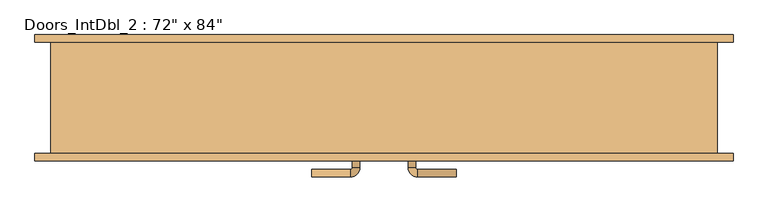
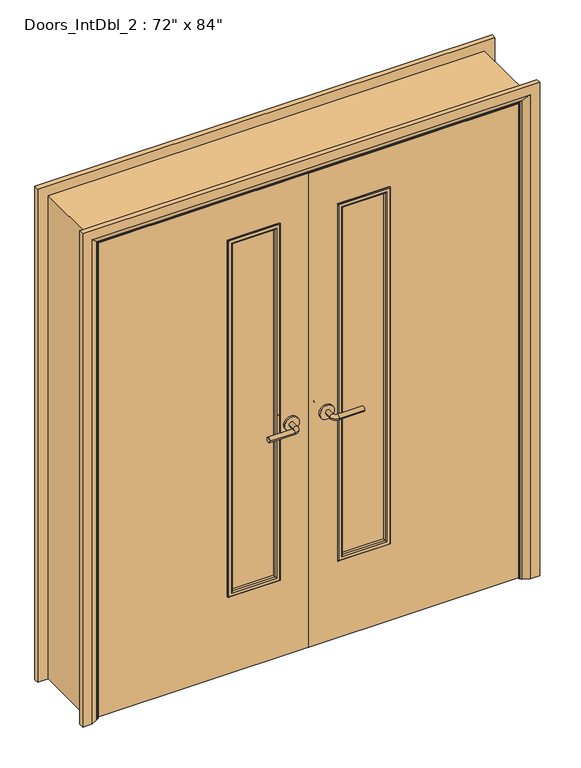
"""IFC4 building model written with IfcOpenShell, lengths in millimetres: door geometry."""

from ifc_helpers import new_model, si_unit, point, frame, frame_2d, origin, place, context, project, spatial, polyline, circle_curve, ellipse_curve, trimmed, segment, composite_curve, outline, extrude, faceted_brep, source, transform, mapped, element, save
from ifc_brep_helpers import plane_surface, cylinder_surface, revolved_surface, advanced_brep


def door_8feb5b00(model_context):
    return source(origin(), model_context, "Body", "SolidModel", [
        advanced_brep(
        [(-65.0, -110.0, 1007.0), (-85.0, -110.0, 1007.0), (-85.0, -80.0, 1007.0), (-65.0, -80.0, 1007.0), (-90.0, -75.0, 1007.0), (-90.0, -55.0, 1007.0), (-195.0, -55.0, 1007.0), (-195.0, -75.0, 1007.0)],
        [
            (0, 1, circle_curve(frame((-75.0, -110.0, 1007.0), z_axis=(0.0, -1.0, 0.0), x_axis=(-1.0, 0.0, 0.0)), 10.0)),
            (1, 0, circle_curve(frame((-75.0, -110.0, 1007.0), z_axis=(0.0, -1.0, 0.0), x_axis=(-1.0, 0.0, 0.0)), 10.0)),
            (1, 2),
            (2, 3, circle_curve(frame((-75.0, -80.0, 1007.0), z_axis=(0.0, -1.0, 0.0), x_axis=(-1.0, 0.0, 0.0)), 10.0)),
            (3, 0),
            (3, 2, circle_curve(frame((-75.0, -80.0, 1007.0), z_axis=(0.0, -1.0, 0.0), x_axis=(-1.0, 0.0, 0.0)), 10.0)),
            (4, 5, circle_curve(frame((-90.0, -65.0, 1007.0), z_axis=(1.0, 0.0, 0.0), x_axis=(0.0, -1.0, 0.0)), 10.0)),
            (5, 3, circle_curve(frame((-90.0, -80.0, 1007.0), z_axis=(0.0, 0.0, -1.0), x_axis=(1.0, 0.0, 0.0)), 25.0)),
            (2, 4, circle_curve(frame((-90.0, -80.0, 1007.0), z_axis=(0.0, 0.0, 1.0), x_axis=(1.0, 0.0, 0.0)), 5.0)),
            (5, 4, circle_curve(frame((-90.0, -65.0, 1007.0), z_axis=(1.0, 0.0, 0.0), x_axis=(0.0, -1.0, 0.0)), 10.0)),
            (6, 7, circle_curve(frame((-195.0, -65.0, 1007.0), z_axis=(-1.0, 0.0, 0.0), x_axis=(0.0, -1.0, 0.0)), 10.0)),
            (7, 6, circle_curve(frame((-195.0, -65.0, 1007.0), z_axis=(-1.0, 0.0, 0.0), x_axis=(0.0, -1.0, 0.0)), 10.0)),
            (4, 7),
            (6, 5),
        ],
        [
            plane_surface(frame((-75.0, -110.0, 1007.0), z_axis=(0.0, -1.0, 0.0), x_axis=(0.0, 0.0, 1.0))),
            cylinder_surface(frame((-75.0, -110.0, 1007.0), z_axis=(0.0, -1.0, 0.0), x_axis=(-1.0, 0.0, 0.0)), 10.0),
            revolved_surface(trimmed(ellipse_curve(frame((-75.0, -80.0, 1007.0), z_axis=(0.0, 1.0, 0.0), x_axis=(-1.0, 0.0, 0.0)), 10.0, 10.0), [point((-65.0, -80.0, 1007.0))], [point((-85.0, -80.0, 1007.0))], True, "CARTESIAN"), (-90.0, -80.0, 1007.0), (0.0, 0.0, -1.0)),
            revolved_surface(trimmed(ellipse_curve(frame((-75.0, -80.0, 1007.0), z_axis=(0.0, 1.0, 0.0), x_axis=(-1.0, 0.0, 0.0)), 10.0, 10.0), [point((-85.0, -80.0, 1007.0))], [point((-65.0, -80.0, 1007.0))], True, "CARTESIAN"), (-90.0, -80.0, 1007.0), (0.0, 0.0, -1.0)),
            plane_surface(frame((-195.0, -65.0, 1007.0), z_axis=(-1.0, 0.0, 0.0), x_axis=(0.0, 0.0, 1.0))),
            cylinder_surface(frame((-90.0, -65.0, 1007.0), z_axis=(1.0, 0.0, 0.0), x_axis=(0.0, -1.0, 0.0)), 10.0),
        ],
        [
            (0, [[1, 2]]),
            (1, [[3, 4, 5, -2]]),
            (1, [[-5, 6, -3, -1]]),
            (2, [[7, 8, -4, 9]]),
            (3, [[10, -9, -6, -8]]),
            (4, [[11, 12]]),
            (5, [[13, -11, 14, -7]]),
            (5, [[-14, -12, -13, -10]]),
        ],
    ),
        extrude(outline(composite_curve([segment(trimmed(circle_curve(frame_2d((1007.0, -72.5)), 30.0), [point((1007.0, -42.5))], [point((1007.0, -102.5))], False, "CARTESIAN"), True, "CONTINUOUS"), segment(trimmed(circle_curve(frame_2d((1007.0, -72.5)), 30.0), [point((1007.0, -102.5))], [point((1007.0, -42.5))], False, "CARTESIAN"), True, "CONTINUOUS")], self_intersect=False)), frame((0.0, -118.0, 0.0), z_axis=(0.0, 1.0, 0.0), x_axis=(0.0, 0.0, 1.0)), (0.0, 0.0, 1.0), 8.0),
        advanced_brep(
        [(-65.0, -158.0, 1007.0), (-85.0, -158.0, 1007.0), (-65.0, -188.0, 1007.0), (-85.0, -188.0, 1007.0), (-90.0, -193.0, 1007.0), (-90.0, -213.0, 1007.0), (-195.0, -213.0, 1007.0), (-195.0, -193.0, 1007.0)],
        [
            (0, 1, circle_curve(frame((-75.0, -158.0, 1007.0), z_axis=(0.0, 1.0, 0.0), x_axis=(-1.0, 0.0, 0.0)), 10.0)),
            (1, 0, circle_curve(frame((-75.0, -158.0, 1007.0), z_axis=(0.0, 1.0, 0.0), x_axis=(-1.0, 0.0, 0.0)), 10.0)),
            (0, 2),
            (2, 3, circle_curve(frame((-75.0, -188.0, 1007.0), z_axis=(0.0, 1.0, 0.0), x_axis=(-1.0, 0.0, 0.0)), 10.0)),
            (3, 1),
            (3, 2, circle_curve(frame((-75.0, -188.0, 1007.0), z_axis=(0.0, 1.0, 0.0), x_axis=(-1.0, 0.0, 0.0)), 10.0)),
            (4, 3, circle_curve(frame((-90.0, -188.0, 1007.0), z_axis=(0.0, 0.0, 1.0), x_axis=(1.0, 0.0, 0.0)), 5.0)),
            (2, 5, circle_curve(frame((-90.0, -188.0, 1007.0), z_axis=(0.0, 0.0, -1.0), x_axis=(1.0, 0.0, 0.0)), 25.0)),
            (5, 4, circle_curve(frame((-90.0, -203.0, 1007.0), z_axis=(1.0, 0.0, 0.0), x_axis=(0.0, 1.0, 0.0)), 10.0)),
            (4, 5, circle_curve(frame((-90.0, -203.0, 1007.0), z_axis=(1.0, 0.0, 0.0), x_axis=(0.0, 1.0, 0.0)), 10.0)),
            (6, 7, circle_curve(frame((-195.0, -203.0, 1007.0), z_axis=(-1.0, 0.0, 0.0), x_axis=(0.0, 1.0, 0.0)), 10.0)),
            (7, 6, circle_curve(frame((-195.0, -203.0, 1007.0), z_axis=(-1.0, 0.0, 0.0), x_axis=(0.0, 1.0, 0.0)), 10.0)),
            (5, 6),
            (7, 4),
        ],
        [
            plane_surface(frame((-75.0, -158.0, 1007.0), z_axis=(0.0, 1.0, 0.0), x_axis=(0.0, 0.0, 1.0))),
            cylinder_surface(frame((-75.0, -158.0, 1007.0), z_axis=(0.0, 1.0, 0.0), x_axis=(-1.0, 0.0, 0.0)), 10.0),
            revolved_surface(trimmed(ellipse_curve(frame((-75.0, -188.0, 1007.0), z_axis=(0.0, 1.0, 0.0), x_axis=(-1.0, 0.0, 0.0)), 10.0, 10.0), [point((-65.0, -188.0, 1007.0))], [point((-85.0, -188.0, 1007.0))], True, "CARTESIAN"), (-90.0, -188.0, 1007.0), (0.0, 0.0, -1.0)),
            revolved_surface(trimmed(ellipse_curve(frame((-75.0, -188.0, 1007.0), z_axis=(0.0, 1.0, 0.0), x_axis=(-1.0, 0.0, 0.0)), 10.0, 10.0), [point((-85.0, -188.0, 1007.0))], [point((-65.0, -188.0, 1007.0))], True, "CARTESIAN"), (-90.0, -188.0, 1007.0), (0.0, 0.0, -1.0)),
            plane_surface(frame((-195.0, -203.0, 1007.0), z_axis=(-1.0, 0.0, 0.0), x_axis=(0.0, 0.0, 1.0))),
            cylinder_surface(frame((-90.0, -203.0, 1007.0), z_axis=(1.0, 0.0, 0.0), x_axis=(0.0, 1.0, 0.0)), 10.0),
        ],
        [
            (0, [[1, 2]]),
            (1, [[-1, 3, 4, 5]]),
            (1, [[-2, -5, 6, -3]]),
            (2, [[7, -4, 8, 9]]),
            (3, [[-8, -6, -7, 10]]),
            (4, [[11, 12]]),
            (5, [[-9, 13, -12, 14]]),
            (5, [[-10, -14, -11, -13]]),
        ],
    ),
        extrude(outline(composite_curve([segment(trimmed(circle_curve(frame_2d((1007.0, -72.5)), 30.0), [point((1007.0, -42.5))], [point((1007.0, -102.5))], False, "CARTESIAN"), True, "CONTINUOUS"), segment(trimmed(circle_curve(frame_2d((1007.0, -72.5)), 30.0), [point((1007.0, -102.5))], [point((1007.0, -42.5))], False, "CARTESIAN"), True, "CONTINUOUS")], self_intersect=False)), frame((0.0, -158.0, 0.0), z_axis=(0.0, 1.0, 0.0), x_axis=(0.0, 0.0, 1.0)), (0.0, 0.0, 1.0), 8.0),
        advanced_brep(
        [(65.0, -110.0, 1007.0), (85.0, -110.0, 1007.0), (65.0, -80.0, 1007.0), (85.0, -80.0, 1007.0), (90.0, -75.0, 1007.0), (90.0, -55.0, 1007.0), (195.0, -55.0, 1007.0), (195.0, -75.0, 1007.0)],
        [
            (0, 1, circle_curve(frame((75.0, -110.0, 1007.0), z_axis=(0.0, -1.0, 0.0), x_axis=(1.0, 0.0, 0.0)), 10.0)),
            (1, 0, circle_curve(frame((75.0, -110.0, 1007.0), z_axis=(0.0, -1.0, 0.0), x_axis=(1.0, 0.0, 0.0)), 10.0)),
            (0, 2),
            (2, 3, circle_curve(frame((75.0, -80.0, 1007.0), z_axis=(0.0, -1.0, 0.0), x_axis=(1.0, 0.0, 0.0)), 10.0)),
            (3, 1),
            (3, 2, circle_curve(frame((75.0, -80.0, 1007.0), z_axis=(0.0, -1.0, 0.0), x_axis=(1.0, 0.0, 0.0)), 10.0)),
            (4, 3, circle_curve(frame((90.0, -80.0, 1007.0), z_axis=(0.0, 0.0, 1.0), x_axis=(-1.0, 0.0, 0.0)), 5.0)),
            (2, 5, circle_curve(frame((90.0, -80.0, 1007.0), z_axis=(0.0, 0.0, -1.0), x_axis=(-1.0, 0.0, 0.0)), 25.0)),
            (5, 4, circle_curve(frame((90.0, -65.0, 1007.0), z_axis=(-1.0, 0.0, 0.0), x_axis=(0.0, -1.0, 0.0)), 10.0)),
            (4, 5, circle_curve(frame((90.0, -65.0, 1007.0), z_axis=(-1.0, 0.0, 0.0), x_axis=(0.0, -1.0, 0.0)), 10.0)),
            (6, 7, circle_curve(frame((195.0, -65.0, 1007.0), z_axis=(1.0, 0.0, 0.0), x_axis=(0.0, -1.0, 0.0)), 10.0)),
            (7, 6, circle_curve(frame((195.0, -65.0, 1007.0), z_axis=(1.0, 0.0, 0.0), x_axis=(0.0, -1.0, 0.0)), 10.0)),
            (5, 6),
            (7, 4),
        ],
        [
            plane_surface(frame((75.0, -110.0, 1007.0), z_axis=(0.0, -1.0, 0.0), x_axis=(0.0, 0.0, 1.0))),
            cylinder_surface(frame((75.0, -110.0, 1007.0), z_axis=(0.0, -1.0, 0.0), x_axis=(1.0, 0.0, 0.0)), 10.0),
            revolved_surface(trimmed(ellipse_curve(frame((75.0, -80.0, 1007.0), z_axis=(0.0, -1.0, 0.0), x_axis=(1.0, 0.0, 0.0)), 10.0, 10.0), [point((65.0, -80.0, 1007.0))], [point((85.0, -80.0, 1007.0))], True, "CARTESIAN"), (90.0, -80.0, 1007.0), (0.0, 0.0, -1.0)),
            revolved_surface(trimmed(ellipse_curve(frame((75.0, -80.0, 1007.0), z_axis=(0.0, -1.0, 0.0), x_axis=(1.0, 0.0, 0.0)), 10.0, 10.0), [point((85.0, -80.0, 1007.0))], [point((65.0, -80.0, 1007.0))], True, "CARTESIAN"), (90.0, -80.0, 1007.0), (0.0, 0.0, -1.0)),
            plane_surface(frame((195.0, -65.0, 1007.0), z_axis=(1.0, 0.0, 0.0), x_axis=(0.0, 0.0, 1.0))),
            cylinder_surface(frame((90.0, -65.0, 1007.0), z_axis=(-1.0, 0.0, 0.0), x_axis=(0.0, -1.0, 0.0)), 10.0),
        ],
        [
            (0, [[1, 2]]),
            (1, [[-1, 3, 4, 5]]),
            (1, [[-2, -5, 6, -3]]),
            (2, [[7, -4, 8, 9]]),
            (3, [[-8, -6, -7, 10]]),
            (4, [[11, 12]]),
            (5, [[-9, 13, -12, 14]]),
            (5, [[-10, -14, -11, -13]]),
        ],
    ),
        extrude(outline(composite_curve([segment(trimmed(circle_curve(frame_2d((1007.0, 72.5)), 30.0), [point((1007.0, 42.5))], [point((1007.0, 102.5))], False, "CARTESIAN"), True, "CONTINUOUS"), segment(trimmed(circle_curve(frame_2d((1007.0, 72.5)), 30.0), [point((1007.0, 102.5))], [point((1007.0, 42.5))], False, "CARTESIAN"), True, "CONTINUOUS")], self_intersect=False)), frame((0.0, -118.0, 0.0), z_axis=(0.0, 1.0, 0.0), x_axis=(0.0, 0.0, 1.0)), (0.0, 0.0, 1.0), 8.0),
        advanced_brep(
        [(65.0, -158.0, 1007.0), (85.0, -158.0, 1007.0), (85.0, -188.0, 1007.0), (65.0, -188.0, 1007.0), (90.0, -193.0, 1007.0), (90.0, -213.0, 1007.0), (195.0, -213.0, 1007.0), (195.0, -193.0, 1007.0)],
        [
            (0, 1, circle_curve(frame((75.0, -158.0, 1007.0), z_axis=(0.0, 1.0, 0.0), x_axis=(1.0, 0.0, 0.0)), 10.0)),
            (1, 0, circle_curve(frame((75.0, -158.0, 1007.0), z_axis=(0.0, 1.0, 0.0), x_axis=(1.0, 0.0, 0.0)), 10.0)),
            (1, 2),
            (2, 3, circle_curve(frame((75.0, -188.0, 1007.0), z_axis=(0.0, 1.0, 0.0), x_axis=(1.0, 0.0, 0.0)), 10.0)),
            (3, 0),
            (3, 2, circle_curve(frame((75.0, -188.0, 1007.0), z_axis=(0.0, 1.0, 0.0), x_axis=(1.0, 0.0, 0.0)), 10.0)),
            (4, 5, circle_curve(frame((90.0, -203.0, 1007.0), z_axis=(-1.0, 0.0, 0.0), x_axis=(0.0, 1.0, 0.0)), 10.0)),
            (5, 3, circle_curve(frame((90.0, -188.0, 1007.0), z_axis=(0.0, 0.0, -1.0), x_axis=(-1.0, 0.0, 0.0)), 25.0)),
            (2, 4, circle_curve(frame((90.0, -188.0, 1007.0), z_axis=(0.0, 0.0, 1.0), x_axis=(-1.0, 0.0, 0.0)), 5.0)),
            (5, 4, circle_curve(frame((90.0, -203.0, 1007.0), z_axis=(-1.0, 0.0, 0.0), x_axis=(0.0, 1.0, 0.0)), 10.0)),
            (6, 7, circle_curve(frame((195.0, -203.0, 1007.0), z_axis=(1.0, 0.0, 0.0), x_axis=(0.0, 1.0, 0.0)), 10.0)),
            (7, 6, circle_curve(frame((195.0, -203.0, 1007.0), z_axis=(1.0, 0.0, 0.0), x_axis=(0.0, 1.0, 0.0)), 10.0)),
            (4, 7),
            (6, 5),
        ],
        [
            plane_surface(frame((75.0, -158.0, 1007.0), z_axis=(0.0, 1.0, 0.0), x_axis=(0.0, 0.0, 1.0))),
            cylinder_surface(frame((75.0, -158.0, 1007.0), z_axis=(0.0, 1.0, 0.0), x_axis=(1.0, 0.0, 0.0)), 10.0),
            revolved_surface(trimmed(ellipse_curve(frame((75.0, -188.0, 1007.0), z_axis=(0.0, -1.0, 0.0), x_axis=(1.0, 0.0, 0.0)), 10.0, 10.0), [point((65.0, -188.0, 1007.0))], [point((85.0, -188.0, 1007.0))], True, "CARTESIAN"), (90.0, -188.0, 1007.0), (0.0, 0.0, -1.0)),
            revolved_surface(trimmed(ellipse_curve(frame((75.0, -188.0, 1007.0), z_axis=(0.0, -1.0, 0.0), x_axis=(1.0, 0.0, 0.0)), 10.0, 10.0), [point((85.0, -188.0, 1007.0))], [point((65.0, -188.0, 1007.0))], True, "CARTESIAN"), (90.0, -188.0, 1007.0), (0.0, 0.0, -1.0)),
            plane_surface(frame((195.0, -203.0, 1007.0), z_axis=(1.0, 0.0, 0.0), x_axis=(0.0, 0.0, 1.0))),
            cylinder_surface(frame((90.0, -203.0, 1007.0), z_axis=(-1.0, 0.0, 0.0), x_axis=(0.0, 1.0, 0.0)), 10.0),
        ],
        [
            (0, [[1, 2]]),
            (1, [[3, 4, 5, -2]]),
            (1, [[-5, 6, -3, -1]]),
            (2, [[7, 8, -4, 9]]),
            (3, [[10, -9, -6, -8]]),
            (4, [[11, 12]]),
            (5, [[13, -11, 14, -7]]),
            (5, [[-14, -12, -13, -10]]),
        ],
    ),
        extrude(outline(composite_curve([segment(trimmed(circle_curve(frame_2d((1007.0, 72.5)), 30.0), [point((1007.0, 42.5))], [point((1007.0, 102.5))], False, "CARTESIAN"), True, "CONTINUOUS"), segment(trimmed(circle_curve(frame_2d((1007.0, 72.5)), 30.0), [point((1007.0, 102.5))], [point((1007.0, 42.5))], False, "CARTESIAN"), True, "CONTINUOUS")], self_intersect=False)), frame((0.0, -158.0, 0.0), z_axis=(0.0, 1.0, 0.0), x_axis=(0.0, 0.0, 1.0)), (0.0, 0.0, 1.0), 8.0),
        advanced_brep(
        [(-940.0, 170.0, 0.0), (-900.0, 170.0, 0.0), (-874.0, 156.0, 0.0), (-870.0, 150.0, 0.0), (-940.0, 150.0, 0.0), (-940.0, 150.0, 2145.0), (-940.0, 170.0, 2145.0), (-870.0, 150.0, 2075.0), (870.0, 150.0, 2075.0), (870.0, 150.0, 0.0), (940.0, 150.0, 0.0), (940.0, 150.0, 2145.0), (-874.0, 156.0, 2079.0), (-900.0, 170.0, 2105.0), (940.0, 170.0, 2145.0), (940.0, 170.0, 0.0), (900.0, 170.0, 0.0), (900.0, 170.0, 2105.0), (874.0, 156.0, 0.0), (874.0, 156.0, 2079.0)],
        [
            (0, 1),
            (1, 2),
            (2, 3, circle_curve(frame((-878.0, 149.0, 0.0), z_axis=(0.0, 0.0, -1.0), x_axis=(-1.0, 0.0, 0.0)), 8.0622577)),
            (3, 4),
            (4, 0),
            (4, 5),
            (5, 6),
            (6, 0),
            (3, 7),
            (7, 8),
            (8, 9),
            (9, 10),
            (10, 11),
            (11, 5),
            (2, 12),
            (12, 7, ellipse_curve(frame((-878.0, 149.0, 2083.0), z_axis=(-0.7071067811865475, 0.0, -0.7071067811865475), x_axis=(0.7071067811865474, 0.0, -0.7071067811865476)), 11.4017543, 8.0622577)),
            (1, 13),
            (13, 12),
            (6, 14),
            (14, 15),
            (15, 16),
            (16, 17),
            (17, 13),
            (10, 15),
            (14, 11),
            (9, 18, circle_curve(frame((878.0, 149.0, 0.0), z_axis=(0.0, 0.0, -1.0), x_axis=(1.0, 0.0, 0.0)), 8.0622577)),
            (18, 16),
            (19, 18),
            (8, 19, ellipse_curve(frame((878.0, 149.0, 2083.0), z_axis=(0.7071067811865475, 0.0, -0.7071067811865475), x_axis=(0.7071067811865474, 0.0, 0.7071067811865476)), 11.4017543, 8.0622577)),
            (19, 17),
            (12, 19),
        ],
        [
            plane_surface(frame((-870.0, 150.0, 0.0), z_axis=(0.0, 0.0, -1.0), x_axis=(0.0, 1.0, 0.0))),
            plane_surface(frame((-940.0, 170.0, 0.0), z_axis=(-1.0, 0.0, 0.0), x_axis=(0.0, 0.0, 1.0))),
            plane_surface(frame((-940.0, 150.0, 0.0), z_axis=(0.0, -1.0, 0.0), x_axis=(0.0, 0.0, 1.0))),
            cylinder_surface(frame((-878.0, 149.0, 0.0), z_axis=(0.0, 0.0, -1.0), x_axis=(-1.0, 0.0, 0.0)), 8.0622577),
            plane_surface(frame((-874.0, 156.0, 0.0), z_axis=(0.4740998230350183, 0.8804710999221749, 0.0), x_axis=(0.0, 0.0, 1.0))),
            plane_surface(frame((-900.0, 170.0, 0.0), z_axis=(0.0, 1.0, 0.0), x_axis=(0.0, 0.0, 1.0))),
            plane_surface(frame((940.0, 170.0, 2145.0), z_axis=(1.0, 0.0, 0.0), x_axis=(0.0, 0.0, -1.0))),
            plane_surface(frame((870.0, 150.0, 0.0), z_axis=(0.0, 0.0, -1.0), x_axis=(0.0, 1.0, 0.0))),
            cylinder_surface(frame((878.0, 149.0, 2075.0), z_axis=(0.0, 0.0, 1.0), x_axis=(1.0, 0.0, 0.0)), 8.0622577),
            plane_surface(frame((874.0, 156.0, 2079.0), z_axis=(-0.4740998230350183, 0.8804710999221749, 0.0), x_axis=(0.0, 0.0, -1.0))),
            plane_surface(frame((-940.0, 170.0, 2145.0), z_axis=(0.0, 0.0, 1.0), x_axis=(1.0, 0.0, 0.0))),
            cylinder_surface(frame((-870.0, 149.0, 2083.0), z_axis=(-1.0, 0.0, 0.0), x_axis=(0.0, 0.0, 1.0)), 8.0622577),
            plane_surface(frame((-874.0, 156.0, 2079.0), z_axis=(0.0, 0.8804710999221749, -0.4740998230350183), x_axis=(1.0, 0.0, 0.0))),
        ],
        [
            (0, [[1, 2, 3, 4, 5]]),
            (1, [[6, 7, 8, -5]]),
            (2, [[9, 10, 11, 12, 13, 14, -6, -4]]),
            (3, [[15, 16, -9, -3]]),
            (4, [[17, 18, -15, -2]]),
            (5, [[-8, 19, 20, 21, 22, 23, -17, -1]]),
            (6, [[-13, 24, -20, 25]]),
            (7, [[-24, -12, 26, 27, -21]]),
            (8, [[28, -26, -11, 29]]),
            (9, [[-22, -27, -28, 30]]),
            (10, [[-14, -25, -19, -7]]),
            (11, [[31, -29, -10, -16]]),
            (12, [[-23, -30, -31, -18]]),
        ],
    ),
        advanced_brep(
        [(940.0, -170.0, 0.0), (900.0, -170.0, 0.0), (874.0, -156.0, 0.0), (870.0, -150.0, 0.0), (940.0, -150.0, 0.0), (940.0, -150.0, 2145.0), (940.0, -170.0, 2145.0), (870.0, -150.0, 2075.0), (-870.0, -150.0, 2075.0), (-870.0, -150.0, 0.0), (-940.0, -150.0, 0.0), (-940.0, -150.0, 2145.0), (874.0, -156.0, 2079.0), (900.0, -170.0, 2105.0), (-940.0, -170.0, 2145.0), (-940.0, -170.0, 0.0), (-900.0, -170.0, 0.0), (-900.0, -170.0, 2105.0), (-874.0, -156.0, 0.0), (-874.0, -156.0, 2079.0)],
        [
            (0, 1),
            (1, 2),
            (2, 3, circle_curve(frame((878.0, -149.0, 0.0), z_axis=(0.0, 0.0, -1.0), x_axis=(1.0, 0.0, 0.0)), 8.0622577)),
            (3, 4),
            (4, 0),
            (4, 5),
            (5, 6),
            (6, 0),
            (3, 7),
            (7, 8),
            (8, 9),
            (9, 10),
            (10, 11),
            (11, 5),
            (2, 12),
            (12, 7, ellipse_curve(frame((878.0, -149.0, 2083.0), z_axis=(0.7071067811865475, 0.0, -0.7071067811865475), x_axis=(-0.7071067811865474, 0.0, -0.7071067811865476)), 11.4017543, 8.0622577)),
            (1, 13),
            (13, 12),
            (6, 14),
            (14, 15),
            (15, 16),
            (16, 17),
            (17, 13),
            (10, 15),
            (14, 11),
            (9, 18, circle_curve(frame((-878.0, -149.0, 0.0), z_axis=(0.0, 0.0, -1.0), x_axis=(-1.0, 0.0, 0.0)), 8.0622577)),
            (18, 16),
            (19, 18),
            (8, 19, ellipse_curve(frame((-878.0, -149.0, 2083.0), z_axis=(-0.7071067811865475, 0.0, -0.7071067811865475), x_axis=(-0.7071067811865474, 0.0, 0.7071067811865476)), 11.4017543, 8.0622577)),
            (19, 17),
            (12, 19),
        ],
        [
            plane_surface(frame((870.0, -150.0, 0.0), z_axis=(0.0, 0.0, -1.0), x_axis=(0.0, 1.0, 0.0))),
            plane_surface(frame((940.0, -170.0, 0.0), z_axis=(1.0, 0.0, 0.0), x_axis=(0.0, 0.0, 1.0))),
            plane_surface(frame((940.0, -150.0, 0.0), z_axis=(0.0, 1.0, 0.0), x_axis=(0.0, 0.0, 1.0))),
            cylinder_surface(frame((878.0, -149.0, 0.0), z_axis=(0.0, 0.0, -1.0), x_axis=(1.0, 0.0, 0.0)), 8.0622577),
            plane_surface(frame((874.0, -156.0, 0.0), z_axis=(-0.4740998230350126, -0.8804710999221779, 0.0), x_axis=(0.0, 0.0, 1.0))),
            plane_surface(frame((900.0, -170.0, 0.0), z_axis=(0.0, -1.0, 0.0), x_axis=(0.0, 0.0, 1.0))),
            plane_surface(frame((-940.0, -170.0, 2145.0), z_axis=(-1.0, 0.0, 0.0), x_axis=(0.0, 0.0, -1.0))),
            plane_surface(frame((-870.0, -150.0, 0.0), z_axis=(0.0, 0.0, -1.0), x_axis=(0.0, 1.0, 0.0))),
            cylinder_surface(frame((-878.0, -149.0, 2075.0), z_axis=(0.0, 0.0, 1.0), x_axis=(-1.0, 0.0, 0.0)), 8.0622577),
            plane_surface(frame((-874.0, -156.0, 2079.0), z_axis=(0.4740998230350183, -0.8804710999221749, 0.0), x_axis=(0.0, 0.0, -1.0))),
            plane_surface(frame((940.0, -170.0, 2145.0), z_axis=(0.0, 0.0, 1.0), x_axis=(-1.0, 0.0, 0.0))),
            cylinder_surface(frame((870.0, -149.0, 2083.0), z_axis=(1.0, 0.0, 0.0), x_axis=(0.0, 0.0, 1.0)), 8.0622577),
            plane_surface(frame((874.0, -156.0, 2079.0), z_axis=(0.0, -0.8804710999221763, -0.4740998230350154), x_axis=(-1.0, 0.0, 0.0))),
        ],
        [
            (0, [[1, 2, 3, 4, 5]]),
            (1, [[6, 7, 8, -5]]),
            (2, [[9, 10, 11, 12, 13, 14, -6, -4]]),
            (3, [[15, 16, -9, -3]]),
            (4, [[17, 18, -15, -2]]),
            (5, [[-8, 19, 20, 21, 22, 23, -17, -1]]),
            (6, [[-13, 24, -20, 25]]),
            (7, [[-24, -12, 26, 27, -21]]),
            (8, [[28, -26, -11, 29]]),
            (9, [[-22, -27, -28, 30]]),
            (10, [[-14, -25, -19, -7]]),
            (11, [[31, -29, -10, -16]]),
            (12, [[-23, -30, -31, -18]]),
        ],
    ),
        faceted_brep([(-846.0, -115.0, 0.0), (-865.0, -115.0, 0.0), (-865.0, -83.0, 0.0), (-846.0, -83.0, 0.0), (-846.0, -83.0, 2051.0), (-846.0, -115.0, 2051.0), (-865.0, -83.0, 2070.0), (-865.0, -115.0, 2070.0), (846.0, -115.0, 0.0), (846.0, -83.0, 0.0), (865.0, -83.0, 0.0), (865.0, -115.0, 0.0), (846.0, -115.0, 2051.0), (865.0, -115.0, 2070.0), (865.0, -83.0, 2070.0), (846.0, -83.0, 2051.0)], [[[0, 1, 2, 3]], [[3, 4, 5, 0]], [[2, 6, 4, 3]], [[1, 7, 6, 2]], [[0, 5, 7, 1]], [[8, 9, 10, 11]], [[12, 8, 11, 13]], [[13, 11, 10, 14]], [[14, 10, 9, 15]], [[15, 9, 8, 12]], [[4, 15, 12, 5]], [[6, 14, 15, 4]], [[7, 13, 14, 6]], [[5, 12, 13, 7]]]),
        extrude(outline(polyline([(2102.0, -897.0), (0.0, -897.0), (0.0, -865.0), (2070.0, -865.0), (2070.0, 865.0), (0.0, 865.0), (0.0, 897.0), (2102.0, 897.0), (2102.0, -897.0)])), frame((0.0, -150.0, 0.0), z_axis=(0.0, 1.0, 0.0), x_axis=(0.0, 0.0, 1.0)), (0.0, 0.0, 1.0), 300.0),
        extrude(outline(polyline([(326.5, -128.0), (326.5, -140.0), (126.5, -140.0), (126.5, -128.0), (326.5, -128.0)])), frame((0.0, 0.0, 350.0), z_axis=(0.0, 0.0, 1.0), x_axis=(1.0, 0.0, 0.0)), (0.0, 0.0, 1.0), 1535.0),
        extrude(outline(polyline([(-126.5, -128.0), (-126.5, -140.0), (-326.5, -140.0), (-326.5, -128.0), (-126.5, -128.0)])), frame((0.0, 0.0, 350.0), z_axis=(0.0, 0.0, 1.0), x_axis=(1.0, 0.0, 0.0)), (0.0, 0.0, 1.0), 1535.0),
        extrude(outline(polyline([(5.753223, -862.0), (5.753223, -1.5), (2067.0, -1.5), (2067.0, -862.0), (5.753223, -862.0)]), holes=[polyline([(1885.0, -326.5), (1885.0, -126.5), (350.0, -126.5), (350.0, -326.5), (1885.0, -326.5)])]), frame((0.0, -150.0, 0.0), z_axis=(0.0, 1.0, 0.0), x_axis=(0.0, 0.0, 1.0)), (0.0, 0.0, 1.0), 32.0),
        extrude(outline(polyline([(5.753223, 862.0), (2067.0, 862.0), (2067.0, 1.5), (5.753223, 1.5), (5.753223, 862.0)]), holes=[polyline([(1885.0, 126.5), (1885.0, 326.5), (350.0, 326.5), (350.0, 126.5), (1885.0, 126.5)])]), frame((0.0, -150.0, 0.0), z_axis=(0.0, 1.0, 0.0), x_axis=(0.0, 0.0, 1.0)), (0.0, 0.0, 1.0), 32.0),
        advanced_brep(
        [(326.5, -128.0, 1885.0), (326.5, -128.0, 350.0), (326.5, -118.0, 350.0), (326.5, -118.0, 1885.0), (314.5, -117.0, 1873.0), (314.5, -117.0, 362.0), (314.5, -128.0, 362.0), (314.5, -128.0, 1873.0), (319.5, -112.0, 1878.0), (319.5, -112.0, 357.0), (334.5, -114.0, 1893.0), (334.5, -114.0, 342.0), (332.5, -112.0, 344.0), (332.5, -112.0, 1891.0), (334.5, -118.0, 1893.0), (334.5, -118.0, 342.0), (126.5, -128.0, 350.0), (126.5, -118.0, 350.0), (138.5, -117.0, 362.0), (138.5, -128.0, 362.0), (133.5, -112.0, 357.0), (118.5, -114.0, 342.0), (120.5, -112.0, 344.0), (118.5, -118.0, 342.0), (126.5, -128.0, 1885.0), (126.5, -118.0, 1885.0), (138.5, -117.0, 1873.0), (138.5, -128.0, 1873.0), (133.5, -112.0, 1878.0), (118.5, -114.0, 1893.0), (120.5, -112.0, 1891.0), (118.5, -118.0, 1893.0)],
        [
            (0, 1),
            (1, 2),
            (2, 3),
            (3, 0),
            (4, 5),
            (5, 6),
            (6, 7),
            (7, 4),
            (8, 9),
            (9, 5, ellipse_curve(frame((319.5, -117.0, 357.0), z_axis=(0.7071067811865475, 0.0, 0.7071067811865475), x_axis=(-0.7071067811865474, 0.0, 0.7071067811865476)), 7.0710678, 5.0)),
            (4, 8, ellipse_curve(frame((319.5, -117.0, 1878.0), z_axis=(0.7071067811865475, 0.0, -0.7071067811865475), x_axis=(0.7071067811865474, 0.0, 0.7071067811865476)), 7.0710678, 5.0)),
            (10, 11),
            (11, 12, ellipse_curve(frame((332.5, -114.0, 344.0), z_axis=(0.7071067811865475, 0.0, 0.7071067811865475), x_axis=(-0.7071067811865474, 0.0, 0.7071067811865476)), 2.8284271, 2.0)),
            (12, 13),
            (13, 10, ellipse_curve(frame((332.5, -114.0, 1891.0), z_axis=(0.7071067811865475, 0.0, -0.7071067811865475), x_axis=(0.7071067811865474, 0.0, 0.7071067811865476)), 2.8284271, 2.0)),
            (14, 15),
            (15, 11),
            (10, 14),
            (1, 16),
            (16, 17),
            (17, 2),
            (5, 18),
            (18, 19),
            (19, 6),
            (9, 20),
            (20, 18, ellipse_curve(frame((133.5, -117.0, 357.0), z_axis=(0.7071067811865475, 0.0, -0.7071067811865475), x_axis=(0.7071067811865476, 0.0, 0.7071067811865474)), 7.0710678, 5.0)),
            (11, 21),
            (21, 22, ellipse_curve(frame((120.5, -114.0, 344.0), z_axis=(0.7071067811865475, 0.0, -0.7071067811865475), x_axis=(0.7071067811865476, 0.0, 0.7071067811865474)), 2.8284271, 2.0)),
            (22, 12),
            (15, 23),
            (23, 21),
            (16, 24),
            (24, 25),
            (25, 17),
            (18, 26),
            (26, 27),
            (27, 19),
            (20, 28),
            (28, 26, ellipse_curve(frame((133.5, -117.0, 1878.0), z_axis=(-0.7071067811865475, 0.0, -0.7071067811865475), x_axis=(0.7071067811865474, 0.0, -0.7071067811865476)), 7.0710678, 5.0)),
            (21, 29),
            (29, 30, ellipse_curve(frame((120.5, -114.0, 1891.0), z_axis=(-0.7071067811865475, 0.0, -0.7071067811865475), x_axis=(0.7071067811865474, 0.0, -0.7071067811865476)), 2.8284271, 2.0)),
            (30, 22),
            (23, 31),
            (31, 29),
            (14, 31),
            (25, 3),
            (24, 0),
            (27, 7),
            (26, 4),
            (28, 8),
            (30, 13),
            (29, 10),
        ],
        [
            plane_surface(frame((326.5, -118.0, 1885.0), z_axis=(1.0, 0.0, 0.0), x_axis=(0.0, 0.0, -1.0))),
            plane_surface(frame((314.5, -128.0, 1873.0), z_axis=(-1.0, 0.0, 0.0), x_axis=(0.0, 0.0, -1.0))),
            cylinder_surface(frame((319.5, -117.0, 1885.0), z_axis=(0.0, 0.0, 1.0), x_axis=(1.0, 0.0, 0.0)), 5.0),
            cylinder_surface(frame((332.5, -114.0, 1885.0), z_axis=(0.0, 0.0, 1.0), x_axis=(1.0, 0.0, 0.0)), 2.0),
            plane_surface(frame((334.5, -114.0, 1893.0), z_axis=(1.0, 0.0, 0.0), x_axis=(0.0, 0.0, -1.0))),
            plane_surface(frame((326.5, -118.0, 350.0), z_axis=(0.0, 0.0, -1.0), x_axis=(-1.0, 0.0, 0.0))),
            plane_surface(frame((314.5, -128.0, 362.0), z_axis=(0.0, 0.0, 1.0), x_axis=(-1.0, 0.0, 0.0))),
            cylinder_surface(frame((326.5, -117.0, 357.0), z_axis=(1.0, 0.0, 0.0), x_axis=(0.0, 0.0, -1.0)), 5.0),
            cylinder_surface(frame((326.5, -114.0, 344.0), z_axis=(1.0, 0.0, 0.0), x_axis=(0.0, 0.0, -1.0)), 2.0),
            plane_surface(frame((334.5, -114.0, 342.0), z_axis=(0.0, 0.0, -1.0), x_axis=(-1.0, 0.0, 0.0))),
            plane_surface(frame((126.5, -118.0, 350.0), z_axis=(-1.0, 0.0, 0.0), x_axis=(0.0, 0.0, 1.0))),
            plane_surface(frame((138.5, -128.0, 362.0), z_axis=(1.0, 0.0, 0.0), x_axis=(0.0, 0.0, 1.0))),
            cylinder_surface(frame((133.5, -117.0, 350.0), z_axis=(0.0, 0.0, -1.0), x_axis=(-1.0, 0.0, 0.0)), 5.0),
            cylinder_surface(frame((120.5, -114.0, 350.0), z_axis=(0.0, 0.0, -1.0), x_axis=(-1.0, 0.0, 0.0)), 2.0),
            plane_surface(frame((118.5, -114.0, 342.0), z_axis=(-1.0, 0.0, 0.0), x_axis=(0.0, 0.0, 1.0))),
            plane_surface(frame((118.5, -118.0, 1893.0), z_axis=(0.0, -1.0, 0.0), x_axis=(1.0, 0.0, 0.0))),
            plane_surface(frame((126.5, -118.0, 1885.0), z_axis=(0.0, 0.0, 1.0), x_axis=(1.0, 0.0, 0.0))),
            plane_surface(frame((126.5, -128.0, 1885.0), z_axis=(0.0, -1.0, 0.0), x_axis=(1.0, 0.0, 0.0))),
            plane_surface(frame((138.5, -128.0, 1873.0), z_axis=(0.0, 0.0, -1.0), x_axis=(1.0, 0.0, 0.0))),
            cylinder_surface(frame((126.5, -117.0, 1878.0), z_axis=(-1.0, 0.0, 0.0), x_axis=(0.0, 0.0, 1.0)), 5.0),
            plane_surface(frame((133.5, -112.0, 1878.0), z_axis=(0.0, 1.0, 0.0), x_axis=(1.0, 0.0, 0.0))),
            cylinder_surface(frame((126.5, -114.0, 1891.0), z_axis=(-1.0, 0.0, 0.0), x_axis=(0.0, 0.0, 1.0)), 2.0),
            plane_surface(frame((118.5, -114.0, 1893.0), z_axis=(0.0, 0.0, 1.0), x_axis=(1.0, 0.0, 0.0))),
        ],
        [
            (0, [[1, 2, 3, 4]]),
            (1, [[5, 6, 7, 8]]),
            (2, [[9, 10, -5, 11]]),
            (3, [[12, 13, 14, 15]]),
            (4, [[16, 17, -12, 18]]),
            (5, [[19, 20, 21, -2]]),
            (6, [[22, 23, 24, -6]]),
            (7, [[25, 26, -22, -10]]),
            (8, [[27, 28, 29, -13]]),
            (9, [[30, 31, -27, -17]]),
            (10, [[32, 33, 34, -20]]),
            (11, [[35, 36, 37, -23]]),
            (12, [[38, 39, -35, -26]]),
            (13, [[40, 41, 42, -28]]),
            (14, [[43, 44, -40, -31]]),
            (15, [[-16, 45, -43, -30], [-3, -21, -34, 46]]),
            (16, [[47, -4, -46, -33]]),
            (17, [[-1, -47, -32, -19], [-7, -24, -37, 48]]),
            (18, [[49, -8, -48, -36]]),
            (19, [[50, -11, -49, -39]]),
            (20, [[-14, -29, -42, 51], [-9, -50, -38, -25]]),
            (21, [[52, -15, -51, -41]]),
            (22, [[-45, -18, -52, -44]]),
        ],
    ),
        advanced_brep(
        [(-326.5, -128.0, 350.0), (-326.5, -128.0, 1885.0), (-326.5, -118.0, 1885.0), (-326.5, -118.0, 350.0), (-314.5, -117.0, 362.0), (-314.5, -117.0, 1873.0), (-314.5, -128.0, 1873.0), (-314.5, -128.0, 362.0), (-319.5, -112.0, 357.0), (-319.5, -112.0, 1878.0), (-334.5, -114.0, 342.0), (-334.5, -114.0, 1893.0), (-332.5, -112.0, 1891.0), (-332.5, -112.0, 344.0), (-334.5, -118.0, 342.0), (-334.5, -118.0, 1893.0), (-126.5, -128.0, 1885.0), (-126.5, -118.0, 1885.0), (-138.5, -117.0, 1873.0), (-138.5, -128.0, 1873.0), (-133.5, -112.0, 1878.0), (-118.5, -114.0, 1893.0), (-120.5, -112.0, 1891.0), (-118.5, -118.0, 1893.0), (-126.5, -128.0, 350.0), (-126.5, -118.0, 350.0), (-138.5, -117.0, 362.0), (-138.5, -128.0, 362.0), (-133.5, -112.0, 357.0), (-118.5, -114.0, 342.0), (-120.5, -112.0, 344.0), (-118.5, -118.0, 342.0)],
        [
            (0, 1),
            (1, 2),
            (2, 3),
            (3, 0),
            (4, 5),
            (5, 6),
            (6, 7),
            (7, 4),
            (8, 9),
            (9, 5, ellipse_curve(frame((-319.5, -117.0, 1878.0), z_axis=(-0.7071067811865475, 0.0, -0.7071067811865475), x_axis=(0.7071067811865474, 0.0, -0.7071067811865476)), 7.0710678, 5.0)),
            (4, 8, ellipse_curve(frame((-319.5, -117.0, 357.0), z_axis=(-0.7071067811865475, 0.0, 0.7071067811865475), x_axis=(-0.7071067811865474, 0.0, -0.7071067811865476)), 7.0710678, 5.0)),
            (10, 11),
            (11, 12, ellipse_curve(frame((-332.5, -114.0, 1891.0), z_axis=(-0.7071067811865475, 0.0, -0.7071067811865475), x_axis=(0.7071067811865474, 0.0, -0.7071067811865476)), 2.8284271, 2.0)),
            (12, 13),
            (13, 10, ellipse_curve(frame((-332.5, -114.0, 344.0), z_axis=(-0.7071067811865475, 0.0, 0.7071067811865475), x_axis=(-0.7071067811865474, 0.0, -0.7071067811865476)), 2.8284271, 2.0)),
            (14, 15),
            (15, 11),
            (10, 14),
            (1, 16),
            (16, 17),
            (17, 2),
            (5, 18),
            (18, 19),
            (19, 6),
            (9, 20),
            (20, 18, ellipse_curve(frame((-133.5, -117.0, 1878.0), z_axis=(-0.7071067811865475, 0.0, 0.7071067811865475), x_axis=(-0.7071067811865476, 0.0, -0.7071067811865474)), 7.0710678, 5.0)),
            (11, 21),
            (21, 22, ellipse_curve(frame((-120.5, -114.0, 1891.0), z_axis=(-0.7071067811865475, 0.0, 0.7071067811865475), x_axis=(-0.7071067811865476, 0.0, -0.7071067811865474)), 2.8284271, 2.0)),
            (22, 12),
            (15, 23),
            (23, 21),
            (16, 24),
            (24, 25),
            (25, 17),
            (18, 26),
            (26, 27),
            (27, 19),
            (20, 28),
            (28, 26, ellipse_curve(frame((-133.5, -117.0, 357.0), z_axis=(0.7071067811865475, 0.0, 0.7071067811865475), x_axis=(-0.7071067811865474, 0.0, 0.7071067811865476)), 7.0710678, 5.0)),
            (21, 29),
            (29, 30, ellipse_curve(frame((-120.5, -114.0, 344.0), z_axis=(0.7071067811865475, 0.0, 0.7071067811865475), x_axis=(-0.7071067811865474, 0.0, 0.7071067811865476)), 2.8284271, 2.0)),
            (30, 22),
            (23, 31),
            (31, 29),
            (14, 31),
            (25, 3),
            (24, 0),
            (27, 7),
            (26, 4),
            (28, 8),
            (30, 13),
            (29, 10),
        ],
        [
            plane_surface(frame((-326.5, -118.0, 350.0), z_axis=(-1.0, 0.0, 0.0), x_axis=(0.0, 0.0, 1.0))),
            plane_surface(frame((-314.5, -128.0, 362.0), z_axis=(1.0, 0.0, 0.0), x_axis=(0.0, 0.0, 1.0))),
            cylinder_surface(frame((-319.5, -117.0, 350.0), z_axis=(0.0, 0.0, -1.0), x_axis=(-1.0, 0.0, 0.0)), 5.0),
            cylinder_surface(frame((-332.5, -114.0, 350.0), z_axis=(0.0, 0.0, -1.0), x_axis=(-1.0, 0.0, 0.0)), 2.0),
            plane_surface(frame((-334.5, -114.0, 342.0), z_axis=(-1.0, 0.0, 0.0), x_axis=(0.0, 0.0, 1.0))),
            plane_surface(frame((-326.5, -118.0, 1885.0), z_axis=(0.0, 0.0, 1.0), x_axis=(1.0, 0.0, 0.0))),
            plane_surface(frame((-314.5, -128.0, 1873.0), z_axis=(0.0, 0.0, -1.0), x_axis=(1.0, 0.0, 0.0))),
            cylinder_surface(frame((-326.5, -117.0, 1878.0), z_axis=(-1.0, 0.0, 0.0), x_axis=(0.0, 0.0, 1.0)), 5.0),
            cylinder_surface(frame((-326.5, -114.0, 1891.0), z_axis=(-1.0, 0.0, 0.0), x_axis=(0.0, 0.0, 1.0)), 2.0),
            plane_surface(frame((-334.5, -114.0, 1893.0), z_axis=(0.0, 0.0, 1.0), x_axis=(1.0, 0.0, 0.0))),
            plane_surface(frame((-126.5, -118.0, 1885.0), z_axis=(1.0, 0.0, 0.0), x_axis=(0.0, 0.0, -1.0))),
            plane_surface(frame((-138.5, -128.0, 1873.0), z_axis=(-1.0, 0.0, 0.0), x_axis=(0.0, 0.0, -1.0))),
            cylinder_surface(frame((-133.5, -117.0, 1885.0), z_axis=(0.0, 0.0, 1.0), x_axis=(1.0, 0.0, 0.0)), 5.0),
            cylinder_surface(frame((-120.5, -114.0, 1885.0), z_axis=(0.0, 0.0, 1.0), x_axis=(1.0, 0.0, 0.0)), 2.0),
            plane_surface(frame((-118.5, -114.0, 1893.0), z_axis=(1.0, 0.0, 0.0), x_axis=(0.0, 0.0, -1.0))),
            plane_surface(frame((-118.5, -118.0, 342.0), z_axis=(0.0, -1.0, 0.0), x_axis=(-1.0, 0.0, 0.0))),
            plane_surface(frame((-126.5, -118.0, 350.0), z_axis=(0.0, 0.0, -1.0), x_axis=(-1.0, 0.0, 0.0))),
            plane_surface(frame((-126.5, -128.0, 350.0), z_axis=(0.0, -1.0, 0.0), x_axis=(-1.0, 0.0, 0.0))),
            plane_surface(frame((-138.5, -128.0, 362.0), z_axis=(0.0, 0.0, 1.0), x_axis=(-1.0, 0.0, 0.0))),
            cylinder_surface(frame((-126.5, -117.0, 357.0), z_axis=(1.0, 0.0, 0.0), x_axis=(0.0, 0.0, -1.0)), 5.0),
            plane_surface(frame((-133.5, -112.0, 357.0), z_axis=(0.0, 1.0, 0.0), x_axis=(-1.0, 0.0, 0.0))),
            cylinder_surface(frame((-126.5, -114.0, 344.0), z_axis=(1.0, 0.0, 0.0), x_axis=(0.0, 0.0, -1.0)), 2.0),
            plane_surface(frame((-118.5, -114.0, 342.0), z_axis=(0.0, 0.0, -1.0), x_axis=(-1.0, 0.0, 0.0))),
        ],
        [
            (0, [[1, 2, 3, 4]]),
            (1, [[5, 6, 7, 8]]),
            (2, [[9, 10, -5, 11]]),
            (3, [[12, 13, 14, 15]]),
            (4, [[16, 17, -12, 18]]),
            (5, [[19, 20, 21, -2]]),
            (6, [[22, 23, 24, -6]]),
            (7, [[25, 26, -22, -10]]),
            (8, [[27, 28, 29, -13]]),
            (9, [[30, 31, -27, -17]]),
            (10, [[32, 33, 34, -20]]),
            (11, [[35, 36, 37, -23]]),
            (12, [[38, 39, -35, -26]]),
            (13, [[40, 41, 42, -28]]),
            (14, [[43, 44, -40, -31]]),
            (15, [[-16, 45, -43, -30], [-3, -21, -34, 46]]),
            (16, [[47, -4, -46, -33]]),
            (17, [[-1, -47, -32, -19], [-7, -24, -37, 48]]),
            (18, [[49, -8, -48, -36]]),
            (19, [[50, -11, -49, -39]]),
            (20, [[-14, -29, -42, 51], [-9, -50, -38, -25]]),
            (21, [[52, -15, -51, -41]]),
            (22, [[-45, -18, -52, -44]]),
        ],
    ),
        advanced_brep(
        [(326.5, -140.0, 350.0), (326.5, -140.0, 1885.0), (326.5, -150.0, 1885.0), (326.5, -150.0, 350.0), (314.5, -151.0, 362.0), (314.5, -151.0, 1873.0), (314.5, -140.0, 1873.0), (314.5, -140.0, 362.0), (319.5, -156.0, 357.0), (319.5, -156.0, 1878.0), (334.5, -154.0, 342.0), (334.5, -154.0, 1893.0), (332.5, -156.0, 1891.0), (332.5, -156.0, 344.0), (334.5, -150.0, 342.0), (334.5, -150.0, 1893.0), (126.5, -140.0, 1885.0), (126.5, -150.0, 1885.0), (138.5, -151.0, 1873.0), (138.5, -140.0, 1873.0), (133.5, -156.0, 1878.0), (118.5, -154.0, 1893.0), (120.5, -156.0, 1891.0), (118.5, -150.0, 1893.0), (126.5, -140.0, 350.0), (126.5, -150.0, 350.0), (138.5, -151.0, 362.0), (138.5, -140.0, 362.0), (133.5, -156.0, 357.0), (118.5, -154.0, 342.0), (120.5, -156.0, 344.0), (118.5, -150.0, 342.0)],
        [
            (0, 1),
            (1, 2),
            (2, 3),
            (3, 0),
            (4, 5),
            (5, 6),
            (6, 7),
            (7, 4),
            (8, 9),
            (9, 5, ellipse_curve(frame((319.5, -151.0, 1878.0), z_axis=(0.7071067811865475, 0.0, -0.7071067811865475), x_axis=(-0.7071067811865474, 0.0, -0.7071067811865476)), 7.0710678, 5.0)),
            (4, 8, ellipse_curve(frame((319.5, -151.0, 357.0), z_axis=(0.7071067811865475, 0.0, 0.7071067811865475), x_axis=(0.7071067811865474, 0.0, -0.7071067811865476)), 7.0710678, 5.0)),
            (10, 11),
            (11, 12, ellipse_curve(frame((332.5, -154.0, 1891.0), z_axis=(0.7071067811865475, 0.0, -0.7071067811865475), x_axis=(-0.7071067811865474, 0.0, -0.7071067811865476)), 2.8284271, 2.0)),
            (12, 13),
            (13, 10, ellipse_curve(frame((332.5, -154.0, 344.0), z_axis=(0.7071067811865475, 0.0, 0.7071067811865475), x_axis=(0.7071067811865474, 0.0, -0.7071067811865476)), 2.8284271, 2.0)),
            (14, 15),
            (15, 11),
            (10, 14),
            (1, 16),
            (16, 17),
            (17, 2),
            (5, 18),
            (18, 19),
            (19, 6),
            (9, 20),
            (20, 18, ellipse_curve(frame((133.5, -151.0, 1878.0), z_axis=(0.7071067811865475, 0.0, 0.7071067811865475), x_axis=(0.7071067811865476, 0.0, -0.7071067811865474)), 7.0710678, 5.0)),
            (11, 21),
            (21, 22, ellipse_curve(frame((120.5, -154.0, 1891.0), z_axis=(0.7071067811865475, 0.0, 0.7071067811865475), x_axis=(0.7071067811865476, 0.0, -0.7071067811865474)), 2.8284271, 2.0)),
            (22, 12),
            (15, 23),
            (23, 21),
            (16, 24),
            (24, 25),
            (25, 17),
            (18, 26),
            (26, 27),
            (27, 19),
            (20, 28),
            (28, 26, ellipse_curve(frame((133.5, -151.0, 357.0), z_axis=(-0.7071067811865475, 0.0, 0.7071067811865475), x_axis=(0.7071067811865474, 0.0, 0.7071067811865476)), 7.0710678, 5.0)),
            (21, 29),
            (29, 30, ellipse_curve(frame((120.5, -154.0, 344.0), z_axis=(-0.7071067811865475, 0.0, 0.7071067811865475), x_axis=(0.7071067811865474, 0.0, 0.7071067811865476)), 2.8284271, 2.0)),
            (30, 22),
            (23, 31),
            (31, 29),
            (14, 31),
            (25, 3),
            (24, 0),
            (27, 7),
            (26, 4),
            (28, 8),
            (30, 13),
            (29, 10),
        ],
        [
            plane_surface(frame((326.5, -150.0, 350.0), z_axis=(1.0, 0.0, 0.0), x_axis=(0.0, 0.0, 1.0))),
            plane_surface(frame((314.5, -140.0, 362.0), z_axis=(-1.0, 0.0, 0.0), x_axis=(0.0, 0.0, 1.0))),
            cylinder_surface(frame((319.5, -151.0, 350.0), z_axis=(0.0, 0.0, -1.0), x_axis=(1.0, 0.0, 0.0)), 5.0),
            cylinder_surface(frame((332.5, -154.0, 350.0), z_axis=(0.0, 0.0, -1.0), x_axis=(1.0, 0.0, 0.0)), 2.0),
            plane_surface(frame((334.5, -154.0, 342.0), z_axis=(1.0, 0.0, 0.0), x_axis=(0.0, 0.0, 1.0))),
            plane_surface(frame((326.5, -150.0, 1885.0), z_axis=(0.0, 0.0, 1.0), x_axis=(-1.0, 0.0, 0.0))),
            plane_surface(frame((314.5, -140.0, 1873.0), z_axis=(0.0, 0.0, -1.0), x_axis=(-1.0, 0.0, 0.0))),
            cylinder_surface(frame((326.5, -151.0, 1878.0), z_axis=(1.0, 0.0, 0.0), x_axis=(0.0, 0.0, 1.0)), 5.0),
            cylinder_surface(frame((326.5, -154.0, 1891.0), z_axis=(1.0, 0.0, 0.0), x_axis=(0.0, 0.0, 1.0)), 2.0),
            plane_surface(frame((334.5, -154.0, 1893.0), z_axis=(0.0, 0.0, 1.0), x_axis=(-1.0, 0.0, 0.0))),
            plane_surface(frame((126.5, -150.0, 1885.0), z_axis=(-1.0, 0.0, 0.0), x_axis=(0.0, 0.0, -1.0))),
            plane_surface(frame((138.5, -140.0, 1873.0), z_axis=(1.0, 0.0, 0.0), x_axis=(0.0, 0.0, -1.0))),
            cylinder_surface(frame((133.5, -151.0, 1885.0), z_axis=(0.0, 0.0, 1.0), x_axis=(-1.0, 0.0, 0.0)), 5.0),
            cylinder_surface(frame((120.5, -154.0, 1885.0), z_axis=(0.0, 0.0, 1.0), x_axis=(-1.0, 0.0, 0.0)), 2.0),
            plane_surface(frame((118.5, -154.0, 1893.0), z_axis=(-1.0, 0.0, 0.0), x_axis=(0.0, 0.0, -1.0))),
            plane_surface(frame((118.5, -150.0, 342.0), z_axis=(0.0, 1.0, 0.0), x_axis=(1.0, 0.0, 0.0))),
            plane_surface(frame((126.5, -150.0, 350.0), z_axis=(0.0, 0.0, -1.0), x_axis=(1.0, 0.0, 0.0))),
            plane_surface(frame((126.5, -140.0, 350.0), z_axis=(0.0, 1.0, 0.0), x_axis=(1.0, 0.0, 0.0))),
            plane_surface(frame((138.5, -140.0, 362.0), z_axis=(0.0, 0.0, 1.0), x_axis=(1.0, 0.0, 0.0))),
            cylinder_surface(frame((126.5, -151.0, 357.0), z_axis=(-1.0, 0.0, 0.0), x_axis=(0.0, 0.0, -1.0)), 5.0),
            plane_surface(frame((133.5, -156.0, 357.0), z_axis=(0.0, -1.0, 0.0), x_axis=(1.0, 0.0, 0.0))),
            cylinder_surface(frame((126.5, -154.0, 344.0), z_axis=(-1.0, 0.0, 0.0), x_axis=(0.0, 0.0, -1.0)), 2.0),
            plane_surface(frame((118.5, -154.0, 342.0), z_axis=(0.0, 0.0, -1.0), x_axis=(1.0, 0.0, 0.0))),
        ],
        [
            (0, [[1, 2, 3, 4]]),
            (1, [[5, 6, 7, 8]]),
            (2, [[9, 10, -5, 11]]),
            (3, [[12, 13, 14, 15]]),
            (4, [[16, 17, -12, 18]]),
            (5, [[19, 20, 21, -2]]),
            (6, [[22, 23, 24, -6]]),
            (7, [[25, 26, -22, -10]]),
            (8, [[27, 28, 29, -13]]),
            (9, [[30, 31, -27, -17]]),
            (10, [[32, 33, 34, -20]]),
            (11, [[35, 36, 37, -23]]),
            (12, [[38, 39, -35, -26]]),
            (13, [[40, 41, 42, -28]]),
            (14, [[43, 44, -40, -31]]),
            (15, [[-16, 45, -43, -30], [-3, -21, -34, 46]]),
            (16, [[47, -4, -46, -33]]),
            (17, [[-1, -47, -32, -19], [-7, -24, -37, 48]]),
            (18, [[49, -8, -48, -36]]),
            (19, [[50, -11, -49, -39]]),
            (20, [[-14, -29, -42, 51], [-9, -50, -38, -25]]),
            (21, [[52, -15, -51, -41]]),
            (22, [[-45, -18, -52, -44]]),
        ],
    ),
        advanced_brep(
        [(-326.5, -140.0, 1885.0), (-326.5, -140.0, 350.0), (-326.5, -150.0, 350.0), (-326.5, -150.0, 1885.0), (-314.5, -151.0, 1873.0), (-314.5, -151.0, 362.0), (-314.5, -140.0, 362.0), (-314.5, -140.0, 1873.0), (-319.5, -156.0, 1878.0), (-319.5, -156.0, 357.0), (-334.5, -154.0, 1893.0), (-334.5, -154.0, 342.0), (-332.5, -156.0, 344.0), (-332.5, -156.0, 1891.0), (-334.5, -150.0, 1893.0), (-334.5, -150.0, 342.0), (-126.5, -140.0, 350.0), (-126.5, -150.0, 350.0), (-138.5, -151.0, 362.0), (-138.5, -140.0, 362.0), (-133.5, -156.0, 357.0), (-118.5, -154.0, 342.0), (-120.5, -156.0, 344.0), (-118.5, -150.0, 342.0), (-126.5, -140.0, 1885.0), (-126.5, -150.0, 1885.0), (-138.5, -151.0, 1873.0), (-138.5, -140.0, 1873.0), (-133.5, -156.0, 1878.0), (-118.5, -154.0, 1893.0), (-120.5, -156.0, 1891.0), (-118.5, -150.0, 1893.0)],
        [
            (0, 1),
            (1, 2),
            (2, 3),
            (3, 0),
            (4, 5),
            (5, 6),
            (6, 7),
            (7, 4),
            (8, 9),
            (9, 5, ellipse_curve(frame((-319.5, -151.0, 357.0), z_axis=(-0.7071067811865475, 0.0, 0.7071067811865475), x_axis=(0.7071067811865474, 0.0, 0.7071067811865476)), 7.0710678, 5.0)),
            (4, 8, ellipse_curve(frame((-319.5, -151.0, 1878.0), z_axis=(-0.7071067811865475, 0.0, -0.7071067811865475), x_axis=(-0.7071067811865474, 0.0, 0.7071067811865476)), 7.0710678, 5.0)),
            (10, 11),
            (11, 12, ellipse_curve(frame((-332.5, -154.0, 344.0), z_axis=(-0.7071067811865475, 0.0, 0.7071067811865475), x_axis=(0.7071067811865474, 0.0, 0.7071067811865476)), 2.8284271, 2.0)),
            (12, 13),
            (13, 10, ellipse_curve(frame((-332.5, -154.0, 1891.0), z_axis=(-0.7071067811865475, 0.0, -0.7071067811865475), x_axis=(-0.7071067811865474, 0.0, 0.7071067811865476)), 2.8284271, 2.0)),
            (14, 15),
            (15, 11),
            (10, 14),
            (1, 16),
            (16, 17),
            (17, 2),
            (5, 18),
            (18, 19),
            (19, 6),
            (9, 20),
            (20, 18, ellipse_curve(frame((-133.5, -151.0, 357.0), z_axis=(-0.7071067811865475, 0.0, -0.7071067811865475), x_axis=(-0.7071067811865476, 0.0, 0.7071067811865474)), 7.0710678, 5.0)),
            (11, 21),
            (21, 22, ellipse_curve(frame((-120.5, -154.0, 344.0), z_axis=(-0.7071067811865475, 0.0, -0.7071067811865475), x_axis=(-0.7071067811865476, 0.0, 0.7071067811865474)), 2.8284271, 2.0)),
            (22, 12),
            (15, 23),
            (23, 21),
            (16, 24),
            (24, 25),
            (25, 17),
            (18, 26),
            (26, 27),
            (27, 19),
            (20, 28),
            (28, 26, ellipse_curve(frame((-133.5, -151.0, 1878.0), z_axis=(0.7071067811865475, 0.0, -0.7071067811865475), x_axis=(-0.7071067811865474, 0.0, -0.7071067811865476)), 7.0710678, 5.0)),
            (21, 29),
            (29, 30, ellipse_curve(frame((-120.5, -154.0, 1891.0), z_axis=(0.7071067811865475, 0.0, -0.7071067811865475), x_axis=(-0.7071067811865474, 0.0, -0.7071067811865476)), 2.8284271, 2.0)),
            (30, 22),
            (23, 31),
            (31, 29),
            (14, 31),
            (25, 3),
            (24, 0),
            (27, 7),
            (26, 4),
            (28, 8),
            (30, 13),
            (29, 10),
        ],
        [
            plane_surface(frame((-326.5, -150.0, 1885.0), z_axis=(-1.0, 0.0, 0.0), x_axis=(0.0, 0.0, -1.0))),
            plane_surface(frame((-314.5, -140.0, 1873.0), z_axis=(1.0, 0.0, 0.0), x_axis=(0.0, 0.0, -1.0))),
            cylinder_surface(frame((-319.5, -151.0, 1885.0), z_axis=(0.0, 0.0, 1.0), x_axis=(-1.0, 0.0, 0.0)), 5.0),
            cylinder_surface(frame((-332.5, -154.0, 1885.0), z_axis=(0.0, 0.0, 1.0), x_axis=(-1.0, 0.0, 0.0)), 2.0),
            plane_surface(frame((-334.5, -154.0, 1893.0), z_axis=(-1.0, 0.0, 0.0), x_axis=(0.0, 0.0, -1.0))),
            plane_surface(frame((-326.5, -150.0, 350.0), z_axis=(0.0, 0.0, -1.0), x_axis=(1.0, 0.0, 0.0))),
            plane_surface(frame((-314.5, -140.0, 362.0), z_axis=(0.0, 0.0, 1.0), x_axis=(1.0, 0.0, 0.0))),
            cylinder_surface(frame((-326.5, -151.0, 357.0), z_axis=(-1.0, 0.0, 0.0), x_axis=(0.0, 0.0, -1.0)), 5.0),
            cylinder_surface(frame((-326.5, -154.0, 344.0), z_axis=(-1.0, 0.0, 0.0), x_axis=(0.0, 0.0, -1.0)), 2.0),
            plane_surface(frame((-334.5, -154.0, 342.0), z_axis=(0.0, 0.0, -1.0), x_axis=(1.0, 0.0, 0.0))),
            plane_surface(frame((-126.5, -150.0, 350.0), z_axis=(1.0, 0.0, 0.0), x_axis=(0.0, 0.0, 1.0))),
            plane_surface(frame((-138.5, -140.0, 362.0), z_axis=(-1.0, 0.0, 0.0), x_axis=(0.0, 0.0, 1.0))),
            cylinder_surface(frame((-133.5, -151.0, 350.0), z_axis=(0.0, 0.0, -1.0), x_axis=(1.0, 0.0, 0.0)), 5.0),
            cylinder_surface(frame((-120.5, -154.0, 350.0), z_axis=(0.0, 0.0, -1.0), x_axis=(1.0, 0.0, 0.0)), 2.0),
            plane_surface(frame((-118.5, -154.0, 342.0), z_axis=(1.0, 0.0, 0.0), x_axis=(0.0, 0.0, 1.0))),
            plane_surface(frame((-118.5, -150.0, 1893.0), z_axis=(0.0, 1.0, 0.0), x_axis=(-1.0, 0.0, 0.0))),
            plane_surface(frame((-126.5, -150.0, 1885.0), z_axis=(0.0, 0.0, 1.0), x_axis=(-1.0, 0.0, 0.0))),
            plane_surface(frame((-126.5, -140.0, 1885.0), z_axis=(0.0, 1.0, 0.0), x_axis=(-1.0, 0.0, 0.0))),
            plane_surface(frame((-138.5, -140.0, 1873.0), z_axis=(0.0, 0.0, -1.0), x_axis=(-1.0, 0.0, 0.0))),
            cylinder_surface(frame((-126.5, -151.0, 1878.0), z_axis=(1.0, 0.0, 0.0), x_axis=(0.0, 0.0, 1.0)), 5.0),
            plane_surface(frame((-133.5, -156.0, 1878.0), z_axis=(0.0, -1.0, 0.0), x_axis=(-1.0, 0.0, 0.0))),
            cylinder_surface(frame((-126.5, -154.0, 1891.0), z_axis=(1.0, 0.0, 0.0), x_axis=(0.0, 0.0, 1.0)), 2.0),
            plane_surface(frame((-118.5, -154.0, 1893.0), z_axis=(0.0, 0.0, 1.0), x_axis=(-1.0, 0.0, 0.0))),
        ],
        [
            (0, [[1, 2, 3, 4]]),
            (1, [[5, 6, 7, 8]]),
            (2, [[9, 10, -5, 11]]),
            (3, [[12, 13, 14, 15]]),
            (4, [[16, 17, -12, 18]]),
            (5, [[19, 20, 21, -2]]),
            (6, [[22, 23, 24, -6]]),
            (7, [[25, 26, -22, -10]]),
            (8, [[27, 28, 29, -13]]),
            (9, [[30, 31, -27, -17]]),
            (10, [[32, 33, 34, -20]]),
            (11, [[35, 36, 37, -23]]),
            (12, [[38, 39, -35, -26]]),
            (13, [[40, 41, 42, -28]]),
            (14, [[43, 44, -40, -31]]),
            (15, [[-16, 45, -43, -30], [-3, -21, -34, 46]]),
            (16, [[47, -4, -46, -33]]),
            (17, [[-1, -47, -32, -19], [-7, -24, -37, 48]]),
            (18, [[49, -8, -48, -36]]),
            (19, [[50, -11, -49, -39]]),
            (20, [[-14, -29, -42, 51], [-9, -50, -38, -25]]),
            (21, [[52, -15, -51, -41]]),
            (22, [[-45, -18, -52, -44]]),
        ],
    ),
    ])


if __name__ == "__main__":
    model = new_model("IFC4")
    model_context = context("Model", 3, world=origin())
    ifc_project = project(units=[si_unit("LENGTHUNIT", "METRE", prefix="MILLI")], contexts=[model_context])
    site = spatial("IfcSite", under=ifc_project)
    building = spatial("IfcBuilding", under=site)
    placement = place(None, origin())
    door_shape = door_8feb5b00(model_context)
    element("IfcDoor", 1, ObjectType="Doors_IntDbl_2 : 72\" x 84\"", at=placement, inside=building, context=model_context, shape_type="MappedRepresentation", body=[
        mapped(door_shape, transform((0.0, 0.0, 0.0), x_axis=(1.0, 0.0, 0.0), y_axis=(0.0, 1.0, 0.0), z_axis=(0.0, 0.0, 1.0))),
    ])
    save(model, "model.ifc")
